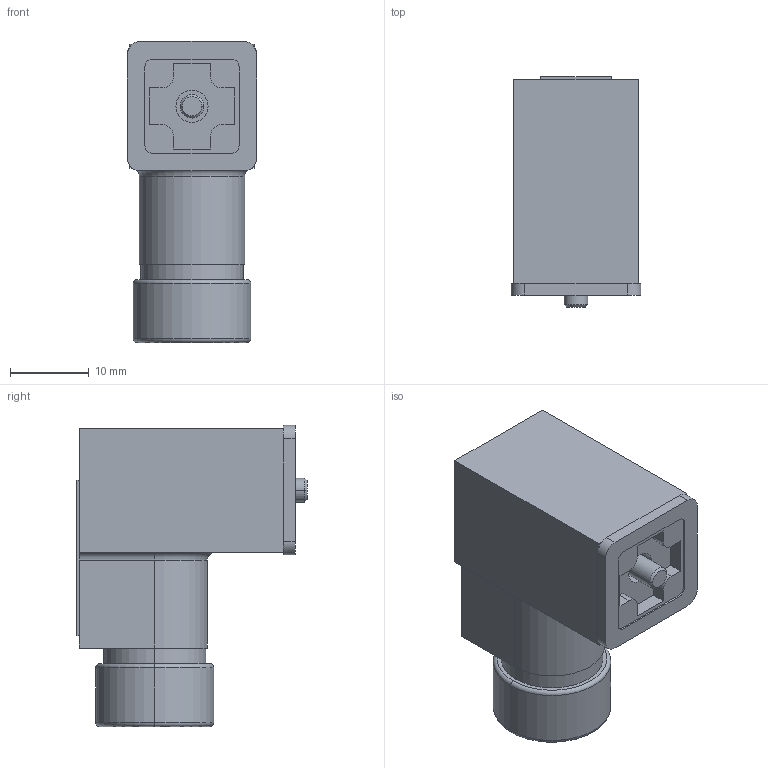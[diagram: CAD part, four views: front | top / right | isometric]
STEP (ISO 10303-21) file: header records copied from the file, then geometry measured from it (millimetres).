
FILE_DESCRIPTION((''),'2;1');
FILE_NAME('1834484050','2019-08-02T',('PDH2HC'),(''),'CREO PARAMETRIC BY PTC INC, 2016260','CREO PARAMETRIC BY PTC INC, 2016260','');
FILE_SCHEMA(('CONFIG_CONTROL_DESIGN'));
Length unit declared in the file: millimetre
Products named in the file (1): 1834484050
Bounding box: 16.5 x 29.3 x 38.35 mm (x, y, z)
Volume: 10870.3 mm3; surface area: 3713.1 mm2
Topology: 1 solids, 1 shells, 87 faces, 213 edges, 135 vertices
Faces by surface type: plane 51, cylinder 27, torus 5, sphere 2, cone 2
Entity records: 2599 total; most frequent: DIRECTION 464, CARTESIAN_POINT 433, ORIENTED_EDGE 422, EDGE_CURVE 211, AXIS2_PLACEMENT_3D 166, VERTEX_POINT 135, VECTOR 132, LINE 132
